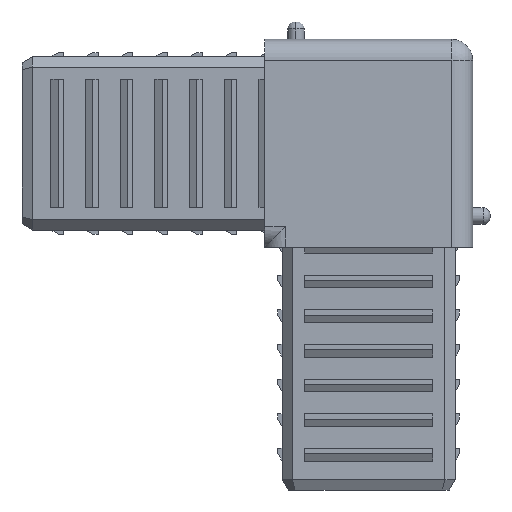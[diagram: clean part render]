
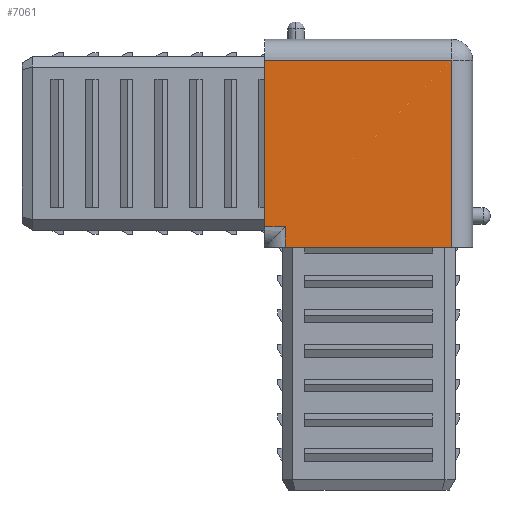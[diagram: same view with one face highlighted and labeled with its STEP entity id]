
A CAD part, left-side view. The second image highlights one B-rep face of the part: STEP entity #7061.
In plain terms, the highlighted planar face has unit normal (-1, 0, 0).
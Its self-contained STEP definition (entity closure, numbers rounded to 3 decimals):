
#217 = VECTOR ( 'NONE', #9208, 1000. ) ;
#334 = VECTOR ( 'NONE', #10539, 1000. ) ;
#760 = CARTESIAN_POINT ( 'NONE',  ( -15., -12., 12. ) ) ;
#793 = VECTOR ( 'NONE', #4251, 1000. ) ;
#939 = VERTEX_POINT ( 'NONE', #6602 ) ;
#1000 = EDGE_CURVE ( 'NONE', #1461, #4630, #5152, .T. ) ;
#1061 = AXIS2_PLACEMENT_3D ( 'NONE', #6890, #1924, #5222 ) ;
#1134 = PLANE ( 'NONE',  #1061 ) ;
#1461 = VERTEX_POINT ( 'NONE', #2393 ) ;
#1924 = DIRECTION ( 'NONE',  ( 1., 0., 0. ) ) ;
#2027 = CARTESIAN_POINT ( 'NONE',  ( -15., -15., -15. ) ) ;
#2244 = ORIENTED_EDGE ( 'NONE', *, *, #7859, .T. ) ;
#2393 = CARTESIAN_POINT ( 'NONE',  ( -15., -12., -15. ) ) ;
#2522 = CARTESIAN_POINT ( 'NONE',  ( -15., 12., -12. ) ) ;
#2551 = EDGE_CURVE ( 'NONE', #5317, #1461, #9458, .T. ) ;
#2610 = CARTESIAN_POINT ( 'NONE',  ( -15., -15., 12. ) ) ;
#2704 = LINE ( 'NONE', #9527, #10112 ) ;
#2945 = VECTOR ( 'NONE', #8706, 1000. ) ;
#3796 = LINE ( 'NONE', #2610, #217 ) ;
#3936 = EDGE_CURVE ( 'NONE', #4630, #939, #3796, .T. ) ;
#4251 = DIRECTION ( 'NONE',  ( 0., 0., 1. ) ) ;
#4578 = VERTEX_POINT ( 'NONE', #8946 ) ;
#4630 = VERTEX_POINT ( 'NONE', #760 ) ;
#4729 = EDGE_CURVE ( 'NONE', #6583, #4578, #10466, .T. ) ;
#4763 = EDGE_LOOP ( 'NONE', ( #2244, #7338, #9650, #5674, #8572, #8890 ) ) ;
#4844 = FACE_OUTER_BOUND ( 'NONE', #4763, .T. ) ;
#5152 = LINE ( 'NONE', #5816, #793 ) ;
#5222 = DIRECTION ( 'NONE',  ( 0., 0., -1. ) ) ;
#5317 = VERTEX_POINT ( 'NONE', #7293 ) ;
#5674 = ORIENTED_EDGE ( 'NONE', *, *, #2551, .T. ) ;
#5713 = VECTOR ( 'NONE', #5728, 1000. ) ;
#5728 = DIRECTION ( 'NONE',  ( 0., 1., 0. ) ) ;
#5816 = CARTESIAN_POINT ( 'NONE',  ( -15., -12., 15. ) ) ;
#6583 = VERTEX_POINT ( 'NONE', #7369 ) ;
#6602 = CARTESIAN_POINT ( 'NONE',  ( -15., 15., 12. ) ) ;
#6890 = CARTESIAN_POINT ( 'NONE',  ( -15., -15., 15. ) ) ;
#7061 = ADVANCED_FACE ( 'NONE', ( #4844 ), #1134, .F. ) ;
#7293 = CARTESIAN_POINT ( 'NONE',  ( -15., 12., -15. ) ) ;
#7338 = ORIENTED_EDGE ( 'NONE', *, *, #4729, .F. ) ;
#7369 = CARTESIAN_POINT ( 'NONE',  ( -15., 12., -12. ) ) ;
#7495 = LINE ( 'NONE', #9671, #334 ) ;
#7859 = EDGE_CURVE ( 'NONE', #939, #4578, #7495, .T. ) ;
#8572 = ORIENTED_EDGE ( 'NONE', *, *, #1000, .T. ) ;
#8706 = DIRECTION ( 'NONE',  ( 0., -1., 0. ) ) ;
#8890 = ORIENTED_EDGE ( 'NONE', *, *, #3936, .T. ) ;
#8946 = CARTESIAN_POINT ( 'NONE',  ( -15., 15., -12. ) ) ;
#9208 = DIRECTION ( 'NONE',  ( 0., 1., 0. ) ) ;
#9458 = LINE ( 'NONE', #2027, #2945 ) ;
#9489 = DIRECTION ( 'NONE',  ( 0., 0., 1. ) ) ;
#9527 = CARTESIAN_POINT ( 'NONE',  ( -15., 12., -12. ) ) ;
#9650 = ORIENTED_EDGE ( 'NONE', *, *, #10482, .F. ) ;
#9671 = CARTESIAN_POINT ( 'NONE',  ( -15., 15., 15. ) ) ;
#10112 = VECTOR ( 'NONE', #9489, 1000. ) ;
#10466 = LINE ( 'NONE', #2522, #5713 ) ;
#10482 = EDGE_CURVE ( 'NONE', #5317, #6583, #2704, .T. ) ;
#10539 = DIRECTION ( 'NONE',  ( 0., 0., -1. ) ) ;
